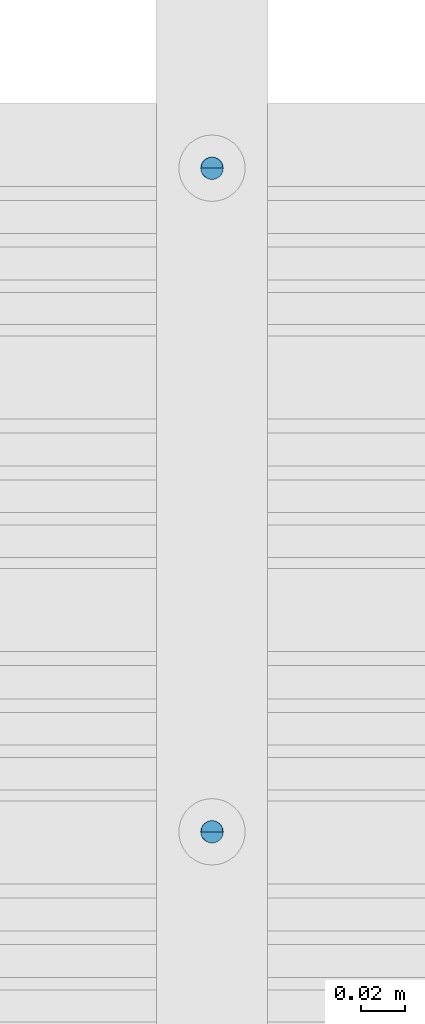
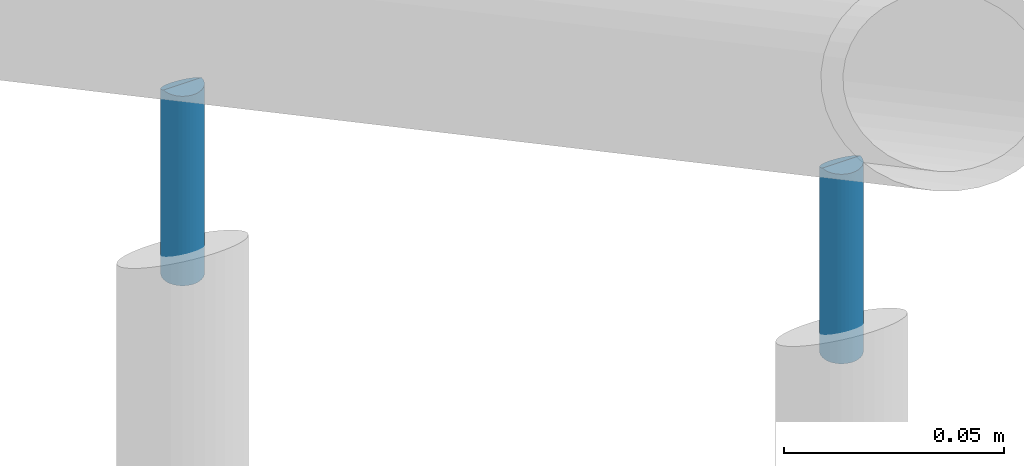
# One storey, part 64 of 418: 1 building element part, 2 elements without a shape of their own.
"""IFC2X3 building model written with IfcOpenShell, lengths in millimetres."""

from ifc_helpers import new_model, entity, si_unit, converted_unit, derived_unit, money_unit, direction, frame, origin_with_axes, place, context, subcontext, project, spatial, faceted_brep, source, transform, mapped, material, type_object, element, aggregate, save


model = new_model("IFC2X3")

# Units and contexts
model_context = context("Model", 3, precision=0.01, world=origin_with_axes(), true_north=direction((0.0, 1.0)))
body_context = subcontext(model_context, "Body", "Model", "MODEL_VIEW")
ifc_project = project(units=[si_unit("LENGTHUNIT", "METRE", prefix="MILLI"), si_unit("AREAUNIT", "SQUARE_METRE"), si_unit("VOLUMEUNIT", "CUBIC_METRE"), converted_unit("PLANEANGLEUNIT", "DEGREE", entity("IfcPlaneAngleMeasure", 0.0174532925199), si_unit("PLANEANGLEUNIT", "RADIAN"), dimensions=[0, 0, 0, 0, 0, 0, 0]), si_unit("SOLIDANGLEUNIT", "STERADIAN"), money_unit("EUR"), converted_unit("TIMEUNIT", "Year", entity("IfcTimeMeasure", 31556926.0), si_unit("TIMEUNIT", "SECOND"), dimensions=[0, 0, 1, 0, 0, 0, 0]), si_unit("MASSUNIT", "GRAM", prefix="KILO"), si_unit("THERMODYNAMICTEMPERATUREUNIT", "DEGREE_CELSIUS"), si_unit("LUMINOUSINTENSITYUNIT", "LUMEN"), si_unit("ENERGYUNIT", "JOULE", prefix="MEGA"), derived_unit("THERMALCONDUCTANCEUNIT", [(si_unit("POWERUNIT", "WATT"), 1), (si_unit("LENGTHUNIT", "METRE"), -1), (si_unit("THERMODYNAMICTEMPERATUREUNIT", "KELVIN"), -1)]), derived_unit("SPECIFICHEATCAPACITYUNIT", [(si_unit("ENERGYUNIT", "JOULE"), 1), (si_unit("MASSUNIT", "GRAM", prefix="KILO"), -1), (si_unit("THERMODYNAMICTEMPERATUREUNIT", "KELVIN"), -1)]), derived_unit("MASSDENSITYUNIT", [(si_unit("MASSUNIT", "GRAM", prefix="KILO"), 1), (si_unit("VOLUMEUNIT", "CUBIC_METRE"), -1)])], contexts=[model_context])

# Site, building, storey
site_placement = place(None, origin_with_axes())
site = spatial("IfcSite", under=ifc_project, at=site_placement, Name="Paldiski mnt 245/1, Tallinn, Harjumaa", CompositionType="COMPLEX")
building_placement = place(site_placement, origin_with_axes())
building = spatial("IfcBuilding", under=site, at=building_placement, Name="RKAS Hoone üldnimetus (kasutust iseloomustav) -> IFC Project Manager -> SOLIBRI", CompositionType="ELEMENT")
storey_placement = place(building_placement, origin_with_axes())
storey = spatial("IfcBuildingStorey", under=building, at=storey_placement, Name="Esimene korrus", CompositionType="ELEMENT", Elevation=0.0)

# Proxies, building element part
building_element_proxy_type_1 = type_object("IfcBuildingElementProxyType", Name="Railing Type", PredefinedType="NOTDEFINED")
proxy_1_placement = place(storey_placement, frame((-41536.0, 460.000000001, -500.846302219), z_axis=(0.0, 0.0, 1.0), x_axis=(1.0, 0.0, 0.0)))
proxy_1 = element("IfcBuildingElementProxy", 1, at=proxy_1_placement, inside=storey, type_object=building_element_proxy_type_1, Name="Trepipiire")
building_element_proxy_type_2 = type_object("IfcBuildingElementProxyType", Name="IfcBuildingElementProxy", PredefinedType="NOTDEFINED")
proxy_2_placement = place(proxy_1_placement, frame((0.0, 2144.92080789, 944.098300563), z_axis=(0.0, 0.0, 1.0), x_axis=(1.0, 0.0, 0.0)))
proxy_2 = element("IfcBuildingElementProxy", 2, at=proxy_2_placement, type_object=building_element_proxy_type_2, Name="ÜL PIIRE - 001")
aggregate(proxy_1, [proxy_2])
ifc_material = material(Name="Teras - Konstruktsioon")
shared_shape = source(origin_with_axes(), body_context, "Body", "Brep", [
    faceted_brep([(-4.33012701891, 268.041857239, 748.809799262), (-3.83022221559, 267.32791919, 748.809799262), (-3.83022221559, 267.32791919, 801.480453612), (-4.33012701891, 268.041857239, 801.480453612), (-4.69846310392, 268.831756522, 748.809799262), (-4.92403876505, 269.67361635, 748.809799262), (-4.99999999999, 270.541857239, 748.809799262), (-4.92403876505, 271.410098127, 748.809799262), (-4.69846310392, 272.251957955, 748.809799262), (-4.33012701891, 273.041857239, 748.809799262), (-3.83022221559, 273.755795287, 748.809799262), (-3.21393804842, 274.372079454, 748.809799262), (-2.49999999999, 274.871984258, 748.809799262), (-1.71010071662, 275.240320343, 748.809799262), (-0.868240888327, 275.465896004, 748.809799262), (0.0, 275.541857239, 748.809799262), (0.868240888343, 275.465896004, 748.809799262), (1.71010071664, 275.240320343, 748.809799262), (2.50000000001, 274.871984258, 748.809799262), (3.21393804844, 274.372079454, 748.809799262), (3.8302222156, 273.755795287, 748.809799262), (4.33012701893, 273.041857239, 748.809799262), (4.69846310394, 272.251957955, 748.809799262), (4.92403876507, 271.410098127, 748.809799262), (5.00000000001, 270.541857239, 748.809799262), (4.92403876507, 269.67361635, 748.809799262), (4.69846310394, 268.831756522, 748.809799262), (4.33012701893, 268.041857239, 748.809799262), (3.8302222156, 267.32791919, 748.809799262), (3.21393804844, 266.711635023, 748.809799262), (2.50000000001, 266.21173022, 748.809799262), (1.71010071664, 265.843394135, 748.809799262), (0.868240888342, 265.617818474, 748.809799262), (0.0, 265.541857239, 748.809799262), (-0.868240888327, 265.617818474, 748.809799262), (-1.71010071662, 265.843394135, 748.809799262), (-2.49999999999, 266.21173022, 748.809799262), (-3.21393804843, 266.711635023, 748.809799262), (-3.21393804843, 266.711635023, 801.480453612), (-4.69846310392, 268.831756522, 801.480453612), (-2.49999999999, 266.21173022, 801.480453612), (-1.71010071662, 265.843394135, 801.480453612), (-0.868240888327, 265.617818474, 801.480453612), (0.0, 265.541857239, 801.480453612), (0.868240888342, 265.617818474, 801.480453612), (1.71010071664, 265.843394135, 801.480453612), (2.50000000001, 266.21173022, 801.480453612), (3.21393804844, 266.711635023, 801.480453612), (3.8302222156, 267.32791919, 801.480453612), (4.33012701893, 268.041857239, 801.480453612), (4.69846310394, 268.831756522, 801.480453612), (4.92403876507, 269.67361635, 801.480453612), (5.00000000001, 270.541857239, 801.480453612), (-4.99999999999, 270.541857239, 801.480453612), (-4.92403876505, 269.67361635, 801.480453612), (-4.92403876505, 271.410098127, 801.016699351), (-4.69846310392, 272.251957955, 800.567036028), (-4.33012701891, 273.041857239, 800.145126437), (-3.83022221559, 273.755795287, 799.763790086), (-3.21393804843, 274.372079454, 799.434613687), (-2.49999999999, 274.871984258, 799.1675991), (-1.71010071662, 275.240320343, 798.970859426), (-0.868240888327, 275.465896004, 798.850372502), (0.0, 275.541857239, 798.809799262), (0.868240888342, 275.465896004, 798.850372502), (1.71010071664, 275.240320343, 798.970859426), (2.50000000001, 274.871984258, 799.1675991), (3.21393804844, 274.372079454, 799.434613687), (3.8302222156, 273.755795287, 799.763790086), (4.33012701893, 273.041857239, 800.145126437), (4.69846310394, 272.251957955, 800.567036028), (4.92403876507, 271.410098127, 801.016699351)], [[[0, 1, 2, 3]], [[4, 5, 6, 7, 8, 9, 10, 11, 12, 13, 14, 15, 16, 17, 18, 19, 20, 21, 22, 23, 24, 25, 26, 27, 28, 29, 30, 31, 32, 33, 34, 35, 36, 37, 1, 0]], [[1, 37, 38, 2]], [[39, 3, 2, 38, 40, 41, 42, 43, 44, 45, 46, 47, 48, 49, 50, 51, 52, 53, 54]], [[4, 0, 3, 39]], [[5, 4, 39, 54]], [[6, 5, 54, 53]], [[7, 6, 53, 55]], [[8, 7, 55, 56]], [[8, 56, 57, 9]], [[10, 9, 57, 58]], [[11, 10, 58, 59]], [[12, 11, 59, 60]], [[13, 12, 60, 61]], [[14, 13, 61, 62]], [[15, 14, 62, 63]], [[16, 15, 63, 64]], [[65, 17, 16, 64]], [[18, 17, 65, 66]], [[19, 18, 66, 67]], [[19, 67, 68, 20]], [[21, 20, 68, 69]], [[22, 21, 69, 70]], [[23, 22, 70, 71]], [[24, 23, 71, 52]], [[25, 24, 52, 51]], [[26, 25, 51, 50]], [[27, 26, 50, 49]], [[28, 27, 49, 48]], [[29, 28, 48, 47]], [[46, 30, 29, 47]], [[31, 30, 46, 45]], [[32, 31, 45, 44]], [[33, 32, 44, 43]], [[34, 33, 43, 42]], [[35, 34, 42, 41]], [[36, 35, 41, 40]], [[37, 36, 40, 38]], [[56, 55, 53, 52, 71, 70, 69, 68, 67, 66, 65, 64, 63, 62, 61, 60, 59, 58, 57]]]),
    faceted_brep([(-3.83022221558, 567.32791919, 588.570538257), (-3.21393804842, 566.711635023, 588.570538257), (-3.21393804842, 566.711635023, 641.241192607), (-3.83022221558, 567.32791919, 641.241192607), (-4.3301270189, 568.041857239, 588.570538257), (-4.69846310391, 568.831756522, 588.570538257), (-4.92403876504, 569.67361635, 588.570538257), (-4.99999999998, 570.541857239, 588.570538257), (-4.92403876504, 571.410098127, 588.570538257), (-4.69846310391, 572.251957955, 588.570538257), (-4.3301270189, 573.041857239, 588.570538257), (-3.83022221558, 573.755795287, 588.570538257), (-3.21393804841, 574.372079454, 588.570538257), (-2.49999999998, 574.871984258, 588.570538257), (-1.71010071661, 575.240320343, 588.570538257), (-0.868240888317, 575.465896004, 588.570538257), (0.0, 575.541857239, 588.570538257), (0.868240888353, 575.465896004, 588.570538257), (1.71010071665, 575.240320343, 588.570538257), (2.50000000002, 574.871984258, 588.570538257), (3.21393804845, 574.372079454, 588.570538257), (3.83022221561, 573.755795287, 588.570538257), (4.33012701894, 573.041857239, 588.570538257), (4.69846310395, 572.251957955, 588.570538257), (4.92403876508, 571.410098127, 588.570538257), (5.00000000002, 570.541857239, 588.570538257), (4.92403876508, 569.67361635, 588.570538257), (4.69846310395, 568.831756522, 588.570538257), (4.33012701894, 568.041857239, 588.570538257), (3.83022221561, 567.32791919, 588.570538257), (3.21393804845, 566.711635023, 588.570538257), (2.50000000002, 566.21173022, 588.570538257), (1.71010071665, 565.843394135, 588.570538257), (0.868240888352, 565.617818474, 588.570538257), (0.0, 565.541857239, 588.570538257), (-0.868240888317, 565.617818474, 588.570538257), (-1.71010071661, 565.843394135, 588.570538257), (-2.49999999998, 566.21173022, 588.570538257), (-2.49999999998, 566.21173022, 641.241192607), (-4.3301270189, 568.041857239, 641.241192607), (-1.71010071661, 565.843394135, 641.241192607), (-0.868240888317, 565.617818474, 641.241192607), (0.0, 565.541857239, 641.241192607), (0.868240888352, 565.617818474, 641.241192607), (1.71010071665, 565.843394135, 641.241192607), (2.50000000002, 566.21173022, 641.241192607), (3.21393804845, 566.711635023, 641.241192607), (3.83022221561, 567.32791919, 641.241192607), (4.33012701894, 568.041857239, 641.241192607), (4.69846310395, 568.831756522, 641.241192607), (4.92403876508, 569.67361635, 641.241192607), (5.00000000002, 570.541857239, 641.241192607), (-4.99999999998, 570.541857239, 641.241192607), (-4.92403876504, 569.67361635, 641.241192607), (-4.69846310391, 568.831756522, 641.241192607), (-4.92403876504, 571.410098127, 640.777438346), (-4.69846310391, 572.251957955, 640.327775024), (-4.3301270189, 573.041857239, 639.905865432), (-3.83022221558, 573.755795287, 639.524529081), (-3.21393804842, 574.372079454, 639.195352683), (-2.49999999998, 574.871984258, 638.928338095), (-1.71010071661, 575.240320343, 638.731598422), (-0.868240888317, 575.465896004, 638.611111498), (0.0, 575.541857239, 638.570538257), (0.868240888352, 575.465896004, 638.611111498), (1.71010071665, 575.240320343, 638.731598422), (2.50000000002, 574.871984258, 638.928338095), (3.21393804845, 574.372079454, 639.195352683), (3.83022221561, 573.755795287, 639.524529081), (4.33012701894, 573.041857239, 639.905865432), (4.69846310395, 572.251957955, 640.327775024), (4.92403876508, 571.410098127, 640.777438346)], [[[0, 1, 2, 3]], [[4, 5, 6, 7, 8, 9, 10, 11, 12, 13, 14, 15, 16, 17, 18, 19, 20, 21, 22, 23, 24, 25, 26, 27, 28, 29, 30, 31, 32, 33, 34, 35, 36, 37, 1, 0]], [[1, 37, 38, 2]], [[39, 3, 2, 38, 40, 41, 42, 43, 44, 45, 46, 47, 48, 49, 50, 51, 52, 53, 54]], [[4, 0, 3, 39]], [[5, 4, 39, 54]], [[53, 6, 5, 54]], [[7, 6, 53, 52]], [[8, 7, 52, 55]], [[9, 8, 55, 56]], [[9, 56, 57, 10]], [[11, 10, 57, 58]], [[12, 11, 58, 59]], [[13, 12, 59, 60]], [[14, 13, 60, 61]], [[15, 14, 61, 62]], [[16, 15, 62, 63]], [[17, 16, 63, 64]], [[65, 18, 17, 64]], [[19, 18, 65, 66]], [[20, 19, 66, 67]], [[20, 67, 68, 21]], [[22, 21, 68, 69]], [[23, 22, 69, 70]], [[24, 23, 70, 71]], [[25, 24, 71, 51]], [[26, 25, 51, 50]], [[27, 26, 50, 49]], [[28, 27, 49, 48]], [[29, 28, 48, 47]], [[30, 29, 47, 46]], [[31, 30, 46, 45]], [[32, 31, 45, 44]], [[33, 32, 44, 43]], [[34, 33, 43, 42]], [[35, 34, 42, 41]], [[36, 35, 41, 40]], [[37, 36, 40, 38]], [[56, 55, 52, 51, 71, 70, 69, 68, 67, 66, 65, 64, 63, 62, 61, 60, 59, 58, 57]]]),
])
building_element_part_placement = place(proxy_2_placement, origin_with_axes())
building_element_part = element("IfcBuildingElementPart", 3, at=building_element_part_placement, material=ifc_material, Name="Teras - Konstruktsioon", context=body_context, shape_type="MappedRepresentation", body=[
    mapped(shared_shape, transform((0.0, -475.12030685, -463.251998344))),
])
aggregate(proxy_2, [building_element_part])

save(model, "model.ifc")
